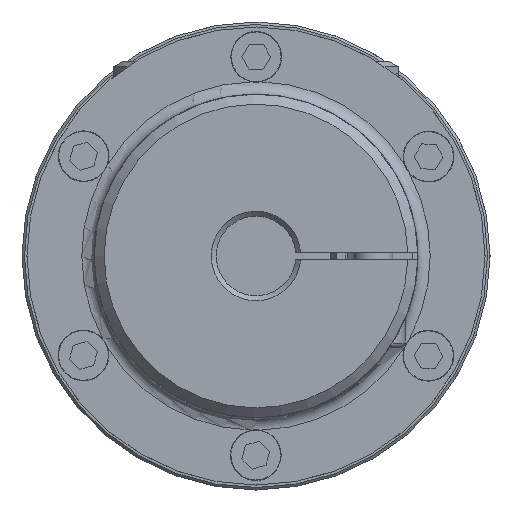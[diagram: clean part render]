
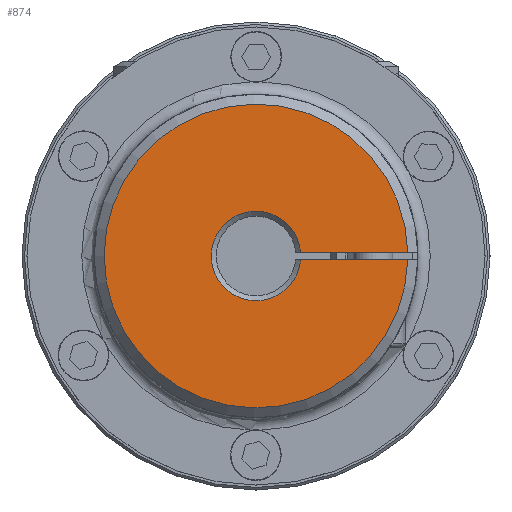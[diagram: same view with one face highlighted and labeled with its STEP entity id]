
A CAD part, left-side view. The second image highlights one B-rep face of the part: STEP entity #874.
In plain terms, the highlighted planar face has unit normal (-1, 0, 0) as drawn and (0, 0, -1) by its records, which use the part's own axes.
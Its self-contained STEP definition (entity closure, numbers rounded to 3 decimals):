
#874 = ADVANCED_FACE( '', ( #1957 ), #1958, .T. );
#1957 = FACE_OUTER_BOUND( '', #3074, .T. );
#1958 = PLANE( '', #3075 );
#3074 = EDGE_LOOP( '', ( #5923, #5924, #5925, #5926 ) );
#3075 = AXIS2_PLACEMENT_3D( '', #5927, #5928, #5929 );
#5923 = ORIENTED_EDGE( '', *, *, #6891, .F. );
#5924 = ORIENTED_EDGE( '', *, *, #6805, .T. );
#5925 = ORIENTED_EDGE( '', *, *, #6888, .T. );
#5926 = ORIENTED_EDGE( '', *, *, #6882, .T. );
#5927 = CARTESIAN_POINT( '', ( 0., 0., 0. ) );
#5928 = DIRECTION( '', ( 0., 0., -1. ) );
#5929 = DIRECTION( '', ( 0., -1., 0. ) );
#6805 = EDGE_CURVE( '', #8160, #8162, #8164, .T. );
#6882 = EDGE_CURVE( '', #8275, #8279, #8281, .F. );
#6888 = EDGE_CURVE( '', #8162, #8275, #8287, .F. );
#6891 = EDGE_CURVE( '', #8160, #8279, #8291, .T. );
#8160 = VERTEX_POINT( '', #10700 );
#8162 = VERTEX_POINT( '', #10705 );
#8164 = CIRCLE( '', #10710, 30.5 );
#8275 = VERTEX_POINT( '', #10927 );
#8279 = VERTEX_POINT( '', #10934 );
#8281 = CIRCLE( '', #10939, 9. );
#8287 = LINE( '', #10947, #10948 );
#8291 = LINE( '', #10953, #10954 );
#10700 = CARTESIAN_POINT( '', ( -30.491, 0.75, 0. ) );
#10705 = CARTESIAN_POINT( '', ( -30.491, -0.75, 0. ) );
#10710 = AXIS2_PLACEMENT_3D( '', #12485, #12486, #12487 );
#10927 = CARTESIAN_POINT( '', ( -8.969, -0.75, 0. ) );
#10934 = CARTESIAN_POINT( '', ( -8.969, 0.75, 0. ) );
#10939 = AXIS2_PLACEMENT_3D( '', #12623, #12624, #12625 );
#10947 = CARTESIAN_POINT( '', ( 0., -0.75, 0. ) );
#10948 = VECTOR( '', #12637, 1000. );
#10953 = CARTESIAN_POINT( '', ( -32.5, 0.75, 0. ) );
#10954 = VECTOR( '', #12642, 1000. );
#12485 = CARTESIAN_POINT( '', ( 0., 0., 0. ) );
#12486 = DIRECTION( '', ( 0., 0., -1. ) );
#12487 = DIRECTION( '', ( -1., 0., 0. ) );
#12623 = CARTESIAN_POINT( '', ( 0., 0., 0. ) );
#12624 = DIRECTION( '', ( 0., 0., -1. ) );
#12625 = DIRECTION( '', ( -1., 0., 0. ) );
#12637 = DIRECTION( '', ( -1., 0., 0. ) );
#12642 = DIRECTION( '', ( 1., 0., 0. ) );
